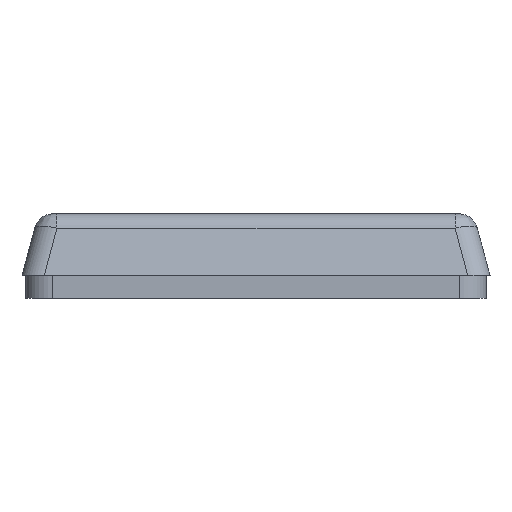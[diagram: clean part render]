
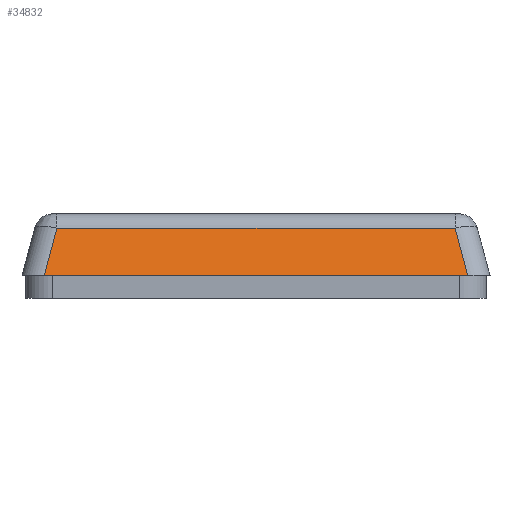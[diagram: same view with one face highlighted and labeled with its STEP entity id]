
A CAD part, left-side view. The second image highlights one B-rep face of the part: STEP entity #34832.
In plain terms, the highlighted planar face has unit normal (-0.966, 0, 0.259).
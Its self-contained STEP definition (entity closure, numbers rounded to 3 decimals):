
#2956=PLANE('',#37903);
#4772=FACE_OUTER_BOUND('',#7010,.T.);
#7010=EDGE_LOOP('',(#30214,#30215,#30216,#30217));
#10185=LINE('',#59232,#13402);
#10186=LINE('',#59235,#13403);
#10187=LINE('',#59237,#13404);
#10188=LINE('',#59238,#13405);
#13402=VECTOR('',#46460,10.);
#13403=VECTOR('',#46463,10.);
#13404=VECTOR('',#46464,10.);
#13405=VECTOR('',#46465,10.);
#17108=VERTEX_POINT('',#59226);
#17109=VERTEX_POINT('',#59230);
#17110=VERTEX_POINT('',#59234);
#17111=VERTEX_POINT('',#59236);
#21714=EDGE_CURVE('',#17108,#17109,#10185,.T.);
#21715=EDGE_CURVE('',#17110,#17108,#10186,.T.);
#21716=EDGE_CURVE('',#17111,#17110,#10187,.T.);
#21717=EDGE_CURVE('',#17109,#17111,#10188,.T.);
#30214=ORIENTED_EDGE('',*,*,#21714,.F.);
#30215=ORIENTED_EDGE('',*,*,#21715,.F.);
#30216=ORIENTED_EDGE('',*,*,#21716,.F.);
#30217=ORIENTED_EDGE('',*,*,#21717,.F.);
#34832=ADVANCED_FACE('',(#4772),#2956,.F.);
#37903=AXIS2_PLACEMENT_3D('',#59233,#46461,#46462);
#46460=DIRECTION('',(-0.251,-0.251,-0.935));
#46461=DIRECTION('center_axis',(0.966,0.,
-0.259));
#46462=DIRECTION('ref_axis',(-0.259,0.,-0.966));
#46463=DIRECTION('',(0.,-1.,0.));
#46464=DIRECTION('',(0.251,-0.251,0.935));
#46465=DIRECTION('',(0.,1.,0.));
#59226=CARTESIAN_POINT('',(-72.853,-25.955,2.147));
#59230=CARTESIAN_POINT('',(-74.5,-27.602,-4.));
#59232=CARTESIAN_POINT('',(-71.223,-24.326,8.228));
#59233=CARTESIAN_POINT('Origin',(-72.853,30.5,2.147));
#59234=CARTESIAN_POINT('',(-72.853,25.955,2.147));
#59235=CARTESIAN_POINT('',(-72.853,30.5,2.147));
#59236=CARTESIAN_POINT('',(-74.5,27.602,-4.));
#59237=CARTESIAN_POINT('',(-68.461,21.563,18.538));
#59238=CARTESIAN_POINT('',(-74.5,15.25,-4.));
